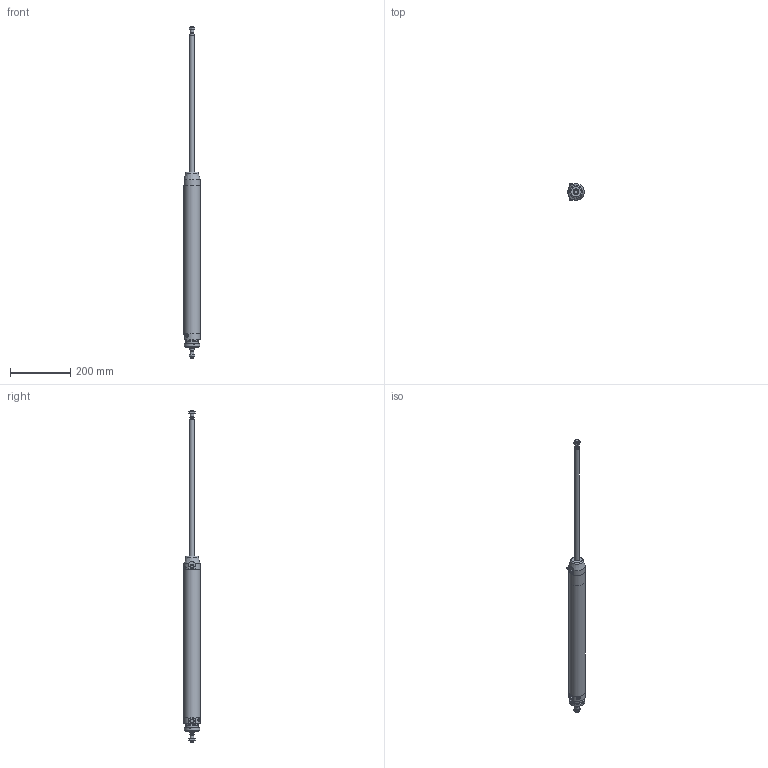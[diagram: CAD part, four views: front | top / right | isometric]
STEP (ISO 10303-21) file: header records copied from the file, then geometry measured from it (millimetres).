
FILE_DESCRIPTION(/* description */ (''),/* implementation_level */ '2;1');
FILE_NAME(/* name */ 'I:\Area Tecnica\Documenti\A-Manieri\_Inventor\12X\12X#T_###_####_#_#\12XDT_050_0450_#_#.stp',/* time_stamp */ '2015-05-13T09:09:41+02:00',/* author */ ('maniean1'),/* organization */ ('Pneumax S.p.A.'),/* preprocessor_version */ 'ST-DEVELOPER v15.2',/* originating_system */ 'Autodesk Inventor 2014',/* authorisation */ '');
FILE_SCHEMA (('AUTOMOTIVE_DESIGN { 1 0 10303 214 3 1 1 }'));
Length unit declared in the file: millimetre
Products named in the file (7): C1250_619-0450; 12X50_606; SP12X50_0450; 12X_50_11; 12X50_614; G12X_050_05; 12XDT_050_0450_#_#
Bounding box: 54 x 57.75 x 1102 mm (x, y, z)
Volume: 612450.2 mm3; surface area: 256983.7 mm2
Topology: 7 solids, 7 shells, 125 faces, 280 edges, 180 vertices
Faces by surface type: plane 66, cylinder 30, cone 26, torus 3
Full cylindrical faces by diameter (mm): 5 x2, 10.2 x2, 11 x2, 11.4 x2, 12 x4, 14 x2, 15.6 x2, 16 x2, 38.2 x1, 40 x3, 50 x2, 54 x3
Entity records: 3058 total; most frequent: CARTESIAN_POINT 614, DIRECTION 513, ORIENTED_EDGE 402, AXIS2_PLACEMENT_3D 219, EDGE_CURVE 201, EDGE_LOOP 178, VERTEX_POINT 153, ADVANCED_FACE 114
